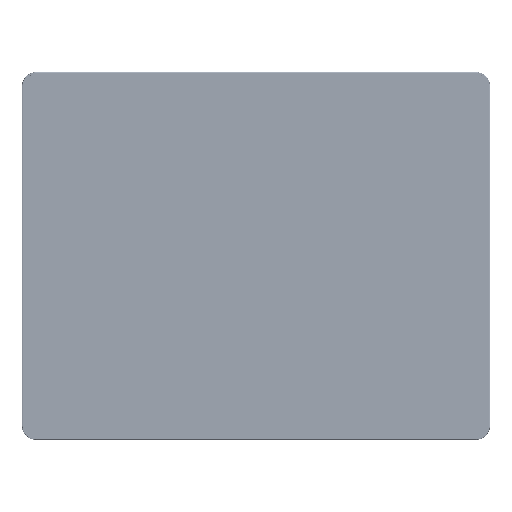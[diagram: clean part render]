
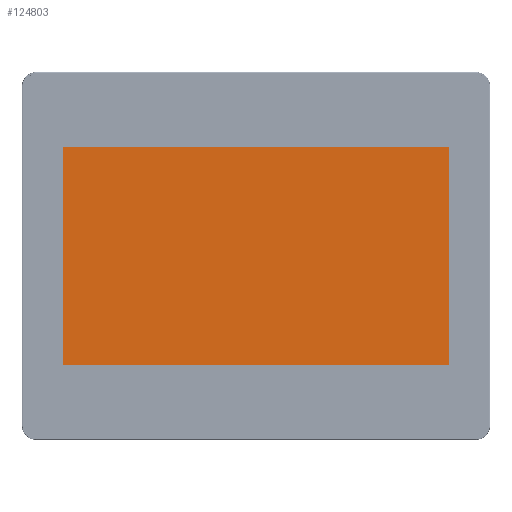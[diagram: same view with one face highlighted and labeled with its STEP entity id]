
A CAD part, top view. The second image highlights one B-rep face of the part: STEP entity #124803.
In plain terms, the highlighted planar face has unit normal (0, 0, 1).
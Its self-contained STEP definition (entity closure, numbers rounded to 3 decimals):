
#23855 = EDGE_CURVE ( 'NONE', #46290, #143075, #119370, .T. ) ;
#28787 = FACE_OUTER_BOUND ( 'NONE', #128471, .T. ) ;
#38121 = VERTEX_POINT ( 'NONE', #66058 ) ;
#46290 = VERTEX_POINT ( 'NONE', #150655 ) ;
#62556 = DIRECTION ( 'NONE',  ( 1., 0., 0. ) ) ;
#64258 = CARTESIAN_POINT ( 'NONE',  ( 111.87, -97.8, 0.18 ) ) ;
#65096 = PLANE ( 'NONE',  #88348 ) ;
#66058 = CARTESIAN_POINT ( 'NONE',  ( 111.87, 63.14, 0.18 ) ) ;
#86210 = VERTEX_POINT ( 'NONE', #168568 ) ;
#87506 = EDGE_CURVE ( 'NONE', #86210, #38121, #152754, .T. ) ;
#88348 = AXIS2_PLACEMENT_3D ( 'NONE', #178348, #124510, #180686 ) ;
#98627 = EDGE_CURVE ( 'NONE', #38121, #46290, #190792, .T. ) ;
#112599 = CARTESIAN_POINT ( 'NONE',  ( -111.87, -63.14, 0.18 ) ) ;
#119370 = LINE ( 'NONE', #194220, #216905 ) ;
#124510 = DIRECTION ( 'NONE',  ( 0., 0., 1. ) ) ;
#124803 = ADVANCED_FACE ( 'NONE', ( #28787 ), #65096, .T. ) ;
#128471 = EDGE_LOOP ( 'NONE', ( #188448, #177532, #137341, #135660 ) ) ;
#134049 = LINE ( 'NONE', #167978, #147654 ) ;
#135660 = ORIENTED_EDGE ( 'NONE', *, *, #23855, .F. ) ;
#137341 = ORIENTED_EDGE ( 'NONE', *, *, #208309, .F. ) ;
#143075 = VERTEX_POINT ( 'NONE', #112599 ) ;
#147654 = VECTOR ( 'NONE', #186769, 1000. ) ;
#150655 = CARTESIAN_POINT ( 'NONE',  ( 111.87, -63.14, 0.18 ) ) ;
#151573 = CARTESIAN_POINT ( 'NONE',  ( 126.8, 63.14, 0.18 ) ) ;
#152754 = LINE ( 'NONE', #151573, #208631 ) ;
#167132 = VECTOR ( 'NONE', #172016, 1000. ) ;
#167978 = CARTESIAN_POINT ( 'NONE',  ( -111.87, -97.8, 0.18 ) ) ;
#168568 = CARTESIAN_POINT ( 'NONE',  ( -111.87, 63.14, 0.18 ) ) ;
#172016 = DIRECTION ( 'NONE',  ( 0., -1., 0. ) ) ;
#177532 = ORIENTED_EDGE ( 'NONE', *, *, #87506, .F. ) ;
#178348 = CARTESIAN_POINT ( 'NONE',  ( 126.8, -97.8, 0.18 ) ) ;
#180686 = DIRECTION ( 'NONE',  ( 1., 0., 0. ) ) ;
#186769 = DIRECTION ( 'NONE',  ( 0., 1., 0. ) ) ;
#188448 = ORIENTED_EDGE ( 'NONE', *, *, #98627, .F. ) ;
#190792 = LINE ( 'NONE', #64258, #167132 ) ;
#194220 = CARTESIAN_POINT ( 'NONE',  ( 126.8, -63.14, 0.18 ) ) ;
#208309 = EDGE_CURVE ( 'NONE', #143075, #86210, #134049, .T. ) ;
#208631 = VECTOR ( 'NONE', #62556, 1000. ) ;
#211867 = DIRECTION ( 'NONE',  ( -1., 0., 0. ) ) ;
#216905 = VECTOR ( 'NONE', #211867, 1000. ) ;
